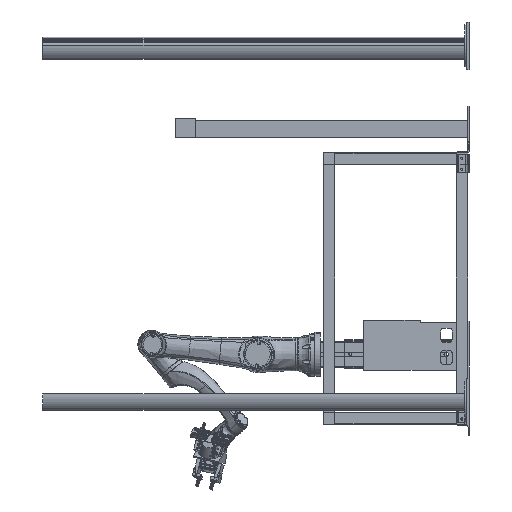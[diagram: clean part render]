
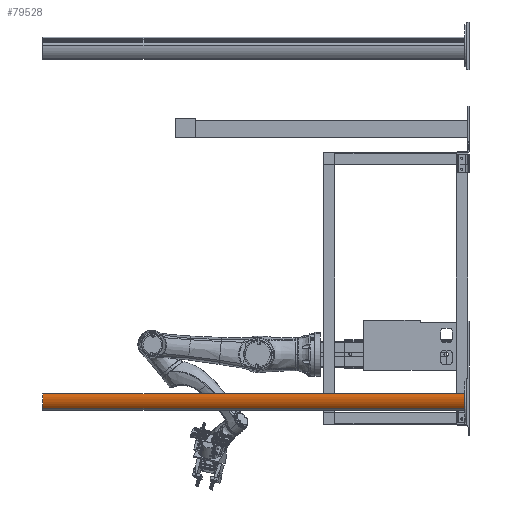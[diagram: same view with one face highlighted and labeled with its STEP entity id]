
A CAD part, left-side view. The second image highlights one B-rep face of the part: STEP entity #79528.
In plain terms, the highlighted cylindrical face has radius 79.059 mm (diameter 158.118 mm), a partial arc.
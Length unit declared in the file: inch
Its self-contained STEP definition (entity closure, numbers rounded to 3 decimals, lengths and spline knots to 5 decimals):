
#1222 = LINE ( 'NONE', #117250, #83757 ) ;
#2452 = VERTEX_POINT ( 'NONE', #201835 ) ;
#3033 = AXIS2_PLACEMENT_3D ( 'NONE', #166630, #13803, #127618 ) ;
#4323 = EDGE_CURVE ( 'NONE', #101026, #2452, #99209, .T. ) ;
#11283 = DIRECTION ( 'NONE',  ( 0., 1., 0. ) ) ;
#13367 = DIRECTION ( 'NONE',  ( 0., 1., 0. ) ) ;
#13803 = DIRECTION ( 'NONE',  ( 0., 1., 0. ) ) ;
#20043 = EDGE_CURVE ( 'NONE', #48230, #192658, #89737, .T. ) ;
#22617 = EDGE_CURVE ( 'NONE', #48230, #2452, #147209, .T. ) ;
#32304 = CARTESIAN_POINT ( 'NONE',  ( -48.58814, -4.40649, -7.06548 ) ) ;
#34724 = ORIENTED_EDGE ( 'NONE', *, *, #159783, .F. ) ;
#48230 = VERTEX_POINT ( 'NONE', #115201 ) ;
#54574 = VECTOR ( 'NONE', #13367, 39.37008 ) ;
#79528 = ADVANCED_FACE ( 'NONE', ( #130560 ), #164092, .T. ) ;
#83757 = VECTOR ( 'NONE', #168595, 39.37008 ) ;
#89737 = CIRCLE ( 'NONE', #136095, 3.11255 ) ;
#94925 = DIRECTION ( 'NONE',  ( 0., 0., 1. ) ) ;
#99209 = CIRCLE ( 'NONE', #3033, 3.11255 ) ;
#101026 = VERTEX_POINT ( 'NONE', #147323 ) ;
#105955 = DIRECTION ( 'NONE',  ( 0., 0., 1. ) ) ;
#115201 = CARTESIAN_POINT ( 'NONE',  ( -48.58814, 0.81496, -7.06548 ) ) ;
#115890 = ORIENTED_EDGE ( 'NONE', *, *, #20043, .F. ) ;
#117250 = CARTESIAN_POINT ( 'NONE',  ( -47.74304, -4.40649, -9.64285 ) ) ;
#117455 = ORIENTED_EDGE ( 'NONE', *, *, #4323, .F. ) ;
#122427 = AXIS2_PLACEMENT_3D ( 'NONE', #181912, #11283, #94925 ) ;
#122672 = DIRECTION ( 'NONE',  ( 0., -1., 0. ) ) ;
#127618 = DIRECTION ( 'NONE',  ( 0., 0., 1. ) ) ;
#130560 = FACE_OUTER_BOUND ( 'NONE', #160520, .T. ) ;
#136095 = AXIS2_PLACEMENT_3D ( 'NONE', #207409, #122672, #105955 ) ;
#142240 = ORIENTED_EDGE ( 'NONE', *, *, #22617, .T. ) ;
#147209 = LINE ( 'NONE', #32304, #54574 ) ;
#147323 = CARTESIAN_POINT ( 'NONE',  ( -47.74304, 76.01181, -9.64285 ) ) ;
#159783 = EDGE_CURVE ( 'NONE', #192658, #101026, #1222, .T. ) ;
#160520 = EDGE_LOOP ( 'NONE', ( #115890, #142240, #117455, #34724 ) ) ;
#164092 = CYLINDRICAL_SURFACE ( 'NONE', #122427, 3.11255 ) ;
#166630 = CARTESIAN_POINT ( 'NONE',  ( -45.50349, 76.01181, -7.48129 ) ) ;
#168595 = DIRECTION ( 'NONE',  ( 0., 1., 0. ) ) ;
#181912 = CARTESIAN_POINT ( 'NONE',  ( -45.50349, -4.40649, -7.48129 ) ) ;
#192658 = VERTEX_POINT ( 'NONE', #196798 ) ;
#196798 = CARTESIAN_POINT ( 'NONE',  ( -47.74304, 0.81496, -9.64285 ) ) ;
#201835 = CARTESIAN_POINT ( 'NONE',  ( -48.58814, 76.01181, -7.06548 ) ) ;
#207409 = CARTESIAN_POINT ( 'NONE',  ( -45.50349, 0.81496, -7.48129 ) ) ;
